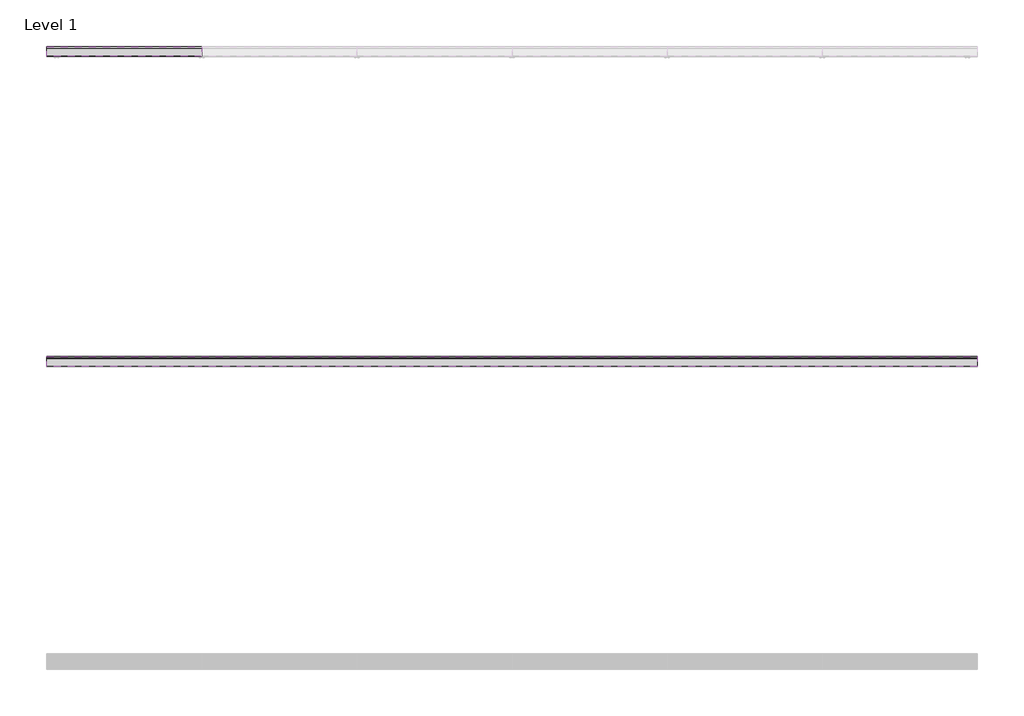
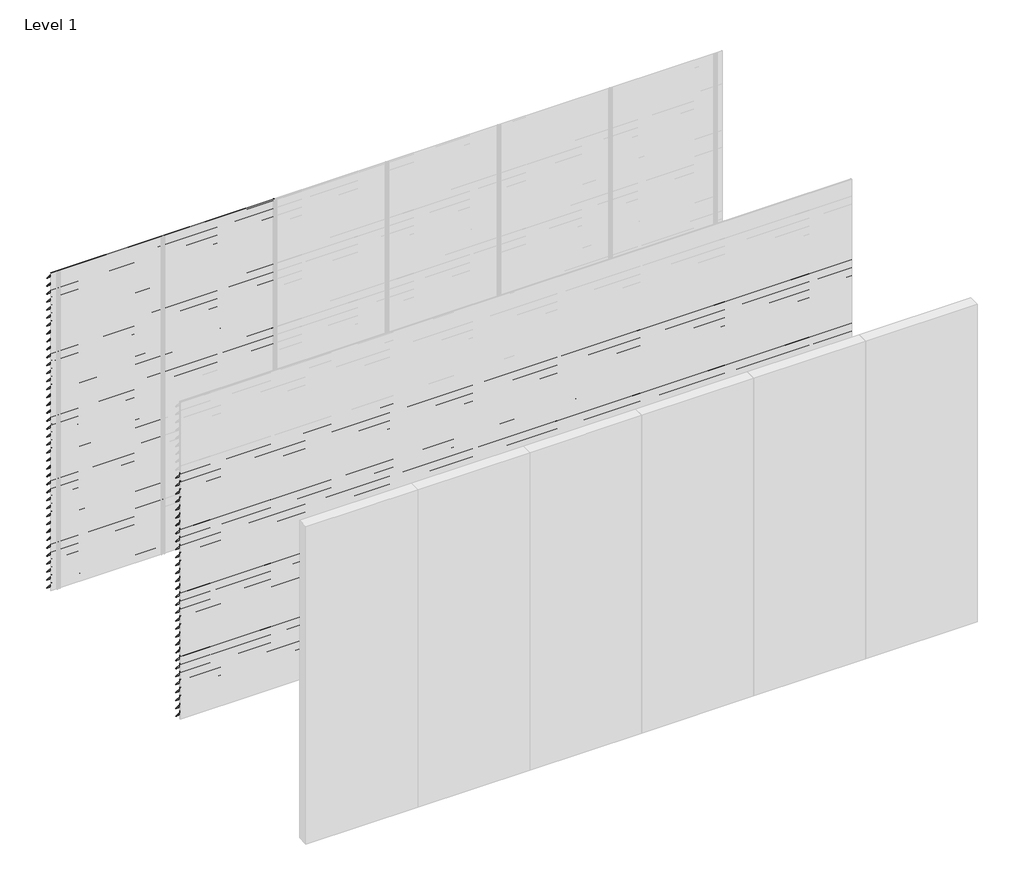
# One storey, part 33 of 35: 90 proxies.
"""IFC4 building model written with IfcOpenShell, lengths in millimetres."""

from ifc_helpers import new_model, si_unit, frame, origin, place, context, project, spatial, polyline, outline, extrude, element, save

model = new_model("IFC4")

# Units and contexts
model_context = context("Model", 3, world=origin())
ifc_project = project(units=[si_unit("LENGTHUNIT", "METRE", prefix="MILLI")], contexts=[model_context])

# Site, building, storey
site = spatial("IfcSite", under=ifc_project)
building = spatial("IfcBuilding", under=site)
storey = spatial("IfcBuildingStorey", under=building, Name="Level 1", Elevation=0.0)

# Proxies
placement = place(None, origin())
element("IfcBuildingElementProxy", 1, Name="Wall Sweeps", at=placement, inside=storey, context=model_context, shape_type="SweptSolid", body=[
    extrude(outline(polyline([(3.5, 3000.0), (3.5, 2985.5463701), (65.5, 2913.9330051), (65.5, 2910.4), (64.0, 2910.4), (64.0, 2913.3738975), (2.0, 2984.9872626), (2.0, 3000.0), (3.5, 3000.0)])), frame((0.0, 0.0, 0.0), z_axis=(1.0, 0.0, 0.0), x_axis=(0.0, 1.0, 0.0)), (0.0, 0.0, 1.0), 1000.0),
])
element("IfcBuildingElementProxy", 2, Name="Wall Sweeps", at=placement, inside=storey, context=model_context, shape_type="SweptSolid", body=[
    extrude(outline(polyline([(3.5, 2925.0), (3.5, 2910.5463701), (65.5, 2838.9330051), (65.5, 2835.4), (64.0, 2835.4), (64.0, 2838.3738975), (2.0, 2909.9872626), (2.0, 2925.0), (3.5, 2925.0)])), frame((0.0, 0.0, 0.0), z_axis=(1.0, 0.0, 0.0), x_axis=(0.0, 1.0, 0.0)), (0.0, 0.0, 1.0), 1000.0),
])
element("IfcBuildingElementProxy", 3, Name="Wall Sweeps", at=placement, inside=storey, context=model_context, shape_type="SweptSolid", body=[
    extrude(outline(polyline([(3.5, 2850.0), (3.5, 2835.5463701), (65.5, 2763.9330051), (65.5, 2760.4), (64.0, 2760.4), (64.0, 2763.3738975), (2.0, 2834.9872626), (2.0, 2850.0), (3.5, 2850.0)])), frame((0.0, 0.0, 0.0), z_axis=(1.0, 0.0, 0.0), x_axis=(0.0, 1.0, 0.0)), (0.0, 0.0, 1.0), 1000.0),
])
element("IfcBuildingElementProxy", 4, Name="Wall Sweeps", at=placement, inside=storey, context=model_context, shape_type="SweptSolid", body=[
    extrude(outline(polyline([(3.5, 2775.0), (3.5, 2760.5463701), (65.5, 2688.9330051), (65.5, 2685.4), (64.0, 2685.4), (64.0, 2688.3738975), (2.0, 2759.9872626), (2.0, 2775.0), (3.5, 2775.0)])), frame((0.0, 0.0, 0.0), z_axis=(1.0, 0.0, 0.0), x_axis=(0.0, 1.0, 0.0)), (0.0, 0.0, 1.0), 1000.0),
])
element("IfcBuildingElementProxy", 5, Name="Wall Sweeps", at=placement, inside=storey, context=model_context, shape_type="SweptSolid", body=[
    extrude(outline(polyline([(3.5, 2700.0), (3.5, 2685.5463701), (65.5, 2613.9330051), (65.5, 2610.4), (64.0, 2610.4), (64.0, 2613.3738975), (2.0, 2684.9872626), (2.0, 2700.0), (3.5, 2700.0)])), frame((0.0, 0.0, 0.0), z_axis=(1.0, 0.0, 0.0), x_axis=(0.0, 1.0, 0.0)), (0.0, 0.0, 1.0), 1000.0),
])
element("IfcBuildingElementProxy", 6, Name="Wall Sweeps", at=placement, inside=storey, context=model_context, shape_type="SweptSolid", body=[
    extrude(outline(polyline([(3.5, 2625.0), (3.5, 2610.5463701), (65.5, 2538.9330051), (65.5, 2535.4), (64.0, 2535.4), (64.0, 2538.3738975), (2.0, 2609.9872626), (2.0, 2625.0), (3.5, 2625.0)])), frame((0.0, 0.0, 0.0), z_axis=(1.0, 0.0, 0.0), x_axis=(0.0, 1.0, 0.0)), (0.0, 0.0, 1.0), 1000.0),
])
element("IfcBuildingElementProxy", 7, Name="Wall Sweeps", at=placement, inside=storey, context=model_context, shape_type="SweptSolid", body=[
    extrude(outline(polyline([(3.5, 2550.0), (3.5, 2535.5463701), (65.5, 2463.9330051), (65.5, 2460.4), (64.0, 2460.4), (64.0, 2463.3738975), (2.0, 2534.9872626), (2.0, 2550.0), (3.5, 2550.0)])), frame((0.0, 0.0, 0.0), z_axis=(1.0, 0.0, 0.0), x_axis=(0.0, 1.0, 0.0)), (0.0, 0.0, 1.0), 1000.0),
])
element("IfcBuildingElementProxy", 8, Name="Wall Sweeps", at=placement, inside=storey, context=model_context, shape_type="SweptSolid", body=[
    extrude(outline(polyline([(3.5, 2475.0), (3.5, 2460.5463701), (65.5, 2388.9330051), (65.5, 2385.4), (64.0, 2385.4), (64.0, 2388.3738975), (2.0, 2459.9872626), (2.0, 2475.0), (3.5, 2475.0)])), frame((0.0, 0.0, 0.0), z_axis=(1.0, 0.0, 0.0), x_axis=(0.0, 1.0, 0.0)), (0.0, 0.0, 1.0), 1000.0),
])
element("IfcBuildingElementProxy", 9, Name="Wall Sweeps", at=placement, inside=storey, context=model_context, shape_type="SweptSolid", body=[
    extrude(outline(polyline([(3.5, 2400.0), (3.5, 2385.5463701), (65.5, 2313.9330051), (65.5, 2310.4), (64.0, 2310.4), (64.0, 2313.3738975), (2.0, 2384.9872626), (2.0, 2400.0), (3.5, 2400.0)])), frame((0.0, 0.0, 0.0), z_axis=(1.0, 0.0, 0.0), x_axis=(0.0, 1.0, 0.0)), (0.0, 0.0, 1.0), 1000.0),
])
element("IfcBuildingElementProxy", 10, Name="Wall Sweeps", at=placement, inside=storey, context=model_context, shape_type="SweptSolid", body=[
    extrude(outline(polyline([(3.5, 2325.0), (3.5, 2310.5463701), (65.5, 2238.9330051), (65.5, 2235.4), (64.0, 2235.4), (64.0, 2238.3738975), (2.0, 2309.9872626), (2.0, 2325.0), (3.5, 2325.0)])), frame((0.0, 0.0, 0.0), z_axis=(1.0, 0.0, 0.0), x_axis=(0.0, 1.0, 0.0)), (0.0, 0.0, 1.0), 1000.0),
])
element("IfcBuildingElementProxy", 11, Name="Wall Sweeps", at=placement, inside=storey, context=model_context, shape_type="SweptSolid", body=[
    extrude(outline(polyline([(3.5, 2250.0), (3.5, 2235.5463701), (65.5, 2163.9330051), (65.5, 2160.4), (64.0, 2160.4), (64.0, 2163.3738975), (2.0, 2234.9872626), (2.0, 2250.0), (3.5, 2250.0)])), frame((0.0, 0.0, 0.0), z_axis=(1.0, 0.0, 0.0), x_axis=(0.0, 1.0, 0.0)), (0.0, 0.0, 1.0), 1000.0),
])
element("IfcBuildingElementProxy", 12, Name="Wall Sweeps", at=placement, inside=storey, context=model_context, shape_type="SweptSolid", body=[
    extrude(outline(polyline([(3.5, 2175.0), (3.5, 2160.5463701), (65.5, 2088.9330051), (65.5, 2085.4), (64.0, 2085.4), (64.0, 2088.3738975), (2.0, 2159.9872626), (2.0, 2175.0), (3.5, 2175.0)])), frame((0.0, 0.0, 0.0), z_axis=(1.0, 0.0, 0.0), x_axis=(0.0, 1.0, 0.0)), (0.0, 0.0, 1.0), 1000.0),
])
element("IfcBuildingElementProxy", 13, Name="Wall Sweeps", at=placement, inside=storey, context=model_context, shape_type="SweptSolid", body=[
    extrude(outline(polyline([(3.5, 2100.0), (3.5, 2085.5463701), (65.5, 2013.9330051), (65.5, 2010.4), (64.0, 2010.4), (64.0, 2013.3738975), (2.0, 2084.9872626), (2.0, 2100.0), (3.5, 2100.0)])), frame((0.0, 0.0, 0.0), z_axis=(1.0, 0.0, 0.0), x_axis=(0.0, 1.0, 0.0)), (0.0, 0.0, 1.0), 1000.0),
])
element("IfcBuildingElementProxy", 14, Name="Wall Sweeps", at=placement, inside=storey, context=model_context, shape_type="SweptSolid", body=[
    extrude(outline(polyline([(3.5, 2025.0), (3.5, 2010.5463701), (65.5, 1938.9330051), (65.5, 1935.4), (64.0, 1935.4), (64.0, 1938.3738975), (2.0, 2009.9872626), (2.0, 2025.0), (3.5, 2025.0)])), frame((0.0, 0.0, 0.0), z_axis=(1.0, 0.0, 0.0), x_axis=(0.0, 1.0, 0.0)), (0.0, 0.0, 1.0), 1000.0),
])
element("IfcBuildingElementProxy", 15, Name="Wall Sweeps", at=placement, inside=storey, context=model_context, shape_type="SweptSolid", body=[
    extrude(outline(polyline([(3.5, 1950.0), (3.5, 1935.5463701), (65.5, 1863.9330051), (65.5, 1860.4), (64.0, 1860.4), (64.0, 1863.3738975), (2.0, 1934.9872626), (2.0, 1950.0), (3.5, 1950.0)])), frame((0.0, 0.0, 0.0), z_axis=(1.0, 0.0, 0.0), x_axis=(0.0, 1.0, 0.0)), (0.0, 0.0, 1.0), 1000.0),
])
element("IfcBuildingElementProxy", 16, Name="Wall Sweeps", at=placement, inside=storey, context=model_context, shape_type="SweptSolid", body=[
    extrude(outline(polyline([(3.5, 1875.0), (3.5, 1860.5463701), (65.5, 1788.9330051), (65.5, 1785.4), (64.0, 1785.4), (64.0, 1788.3738975), (2.0, 1859.9872626), (2.0, 1875.0), (3.5, 1875.0)])), frame((0.0, 0.0, 0.0), z_axis=(1.0, 0.0, 0.0), x_axis=(0.0, 1.0, 0.0)), (0.0, 0.0, 1.0), 1000.0),
])
element("IfcBuildingElementProxy", 17, Name="Wall Sweeps", at=placement, inside=storey, context=model_context, shape_type="SweptSolid", body=[
    extrude(outline(polyline([(3.5, 1800.0), (3.5, 1785.5463701), (65.5, 1713.9330051), (65.5, 1710.4), (64.0, 1710.4), (64.0, 1713.3738975), (2.0, 1784.9872626), (2.0, 1800.0), (3.5, 1800.0)])), frame((0.0, 0.0, 0.0), z_axis=(1.0, 0.0, 0.0), x_axis=(0.0, 1.0, 0.0)), (0.0, 0.0, 1.0), 1000.0),
])
element("IfcBuildingElementProxy", 18, Name="Wall Sweeps", at=placement, inside=storey, context=model_context, shape_type="SweptSolid", body=[
    extrude(outline(polyline([(3.5, 1725.0), (3.5, 1710.5463701), (65.5, 1638.9330051), (65.5, 1635.4), (64.0, 1635.4), (64.0, 1638.3738975), (2.0, 1709.9872626), (2.0, 1725.0), (3.5, 1725.0)])), frame((0.0, 0.0, 0.0), z_axis=(1.0, 0.0, 0.0), x_axis=(0.0, 1.0, 0.0)), (0.0, 0.0, 1.0), 1000.0),
])
element("IfcBuildingElementProxy", 19, Name="Wall Sweeps", at=placement, inside=storey, context=model_context, shape_type="SweptSolid", body=[
    extrude(outline(polyline([(3.5, 1650.0), (3.5, 1635.5463701), (65.5, 1563.9330051), (65.5, 1560.4), (64.0, 1560.4), (64.0, 1563.3738975), (2.0, 1634.9872626), (2.0, 1650.0), (3.5, 1650.0)])), frame((0.0, 0.0, 0.0), z_axis=(1.0, 0.0, 0.0), x_axis=(0.0, 1.0, 0.0)), (0.0, 0.0, 1.0), 1000.0),
])
element("IfcBuildingElementProxy", 20, Name="Wall Sweeps", at=placement, inside=storey, context=model_context, shape_type="SweptSolid", body=[
    extrude(outline(polyline([(3.5, 1575.0), (3.5, 1560.5463701), (65.5, 1488.9330051), (65.5, 1485.4), (64.0, 1485.4), (64.0, 1488.3738975), (2.0, 1559.9872626), (2.0, 1575.0), (3.5, 1575.0)])), frame((0.0, 0.0, 0.0), z_axis=(1.0, 0.0, 0.0), x_axis=(0.0, 1.0, 0.0)), (0.0, 0.0, 1.0), 1000.0),
])
element("IfcBuildingElementProxy", 21, Name="Wall Sweeps", at=placement, inside=storey, context=model_context, shape_type="SweptSolid", body=[
    extrude(outline(polyline([(3.5, 1500.0), (3.5, 1485.5463701), (65.5, 1413.9330051), (65.5, 1410.4), (64.0, 1410.4), (64.0, 1413.3738975), (2.0, 1484.9872626), (2.0, 1500.0), (3.5, 1500.0)])), frame((0.0, 0.0, 0.0), z_axis=(1.0, 0.0, 0.0), x_axis=(0.0, 1.0, 0.0)), (0.0, 0.0, 1.0), 1000.0),
])
element("IfcBuildingElementProxy", 22, Name="Wall Sweeps", at=placement, inside=storey, context=model_context, shape_type="SweptSolid", body=[
    extrude(outline(polyline([(3.5, 1425.0), (3.5, 1410.5463701), (65.5, 1338.9330051), (65.5, 1335.4), (64.0, 1335.4), (64.0, 1338.3738975), (2.0, 1409.9872626), (2.0, 1425.0), (3.5, 1425.0)])), frame((0.0, 0.0, 0.0), z_axis=(1.0, 0.0, 0.0), x_axis=(0.0, 1.0, 0.0)), (0.0, 0.0, 1.0), 1000.0),
])
element("IfcBuildingElementProxy", 23, Name="Wall Sweeps", at=placement, inside=storey, context=model_context, shape_type="SweptSolid", body=[
    extrude(outline(polyline([(3.5, 1350.0), (3.5, 1335.5463701), (65.5, 1263.9330051), (65.5, 1260.4), (64.0, 1260.4), (64.0, 1263.3738975), (2.0, 1334.9872626), (2.0, 1350.0), (3.5, 1350.0)])), frame((0.0, 0.0, 0.0), z_axis=(1.0, 0.0, 0.0), x_axis=(0.0, 1.0, 0.0)), (0.0, 0.0, 1.0), 1000.0),
])
element("IfcBuildingElementProxy", 24, Name="Wall Sweeps", at=placement, inside=storey, context=model_context, shape_type="SweptSolid", body=[
    extrude(outline(polyline([(3.5, 1275.0), (3.5, 1260.5463701), (65.5, 1188.9330051), (65.5, 1185.4), (64.0, 1185.4), (64.0, 1188.3738975), (2.0, 1259.9872626), (2.0, 1275.0), (3.5, 1275.0)])), frame((0.0, 0.0, 0.0), z_axis=(1.0, 0.0, 0.0), x_axis=(0.0, 1.0, 0.0)), (0.0, 0.0, 1.0), 1000.0),
])
element("IfcBuildingElementProxy", 25, Name="Wall Sweeps", at=placement, inside=storey, context=model_context, shape_type="SweptSolid", body=[
    extrude(outline(polyline([(3.5, 1200.0), (3.5, 1185.5463701), (65.5, 1113.9330051), (65.5, 1110.4), (64.0, 1110.4), (64.0, 1113.3738975), (2.0, 1184.9872626), (2.0, 1200.0), (3.5, 1200.0)])), frame((0.0, 0.0, 0.0), z_axis=(1.0, 0.0, 0.0), x_axis=(0.0, 1.0, 0.0)), (0.0, 0.0, 1.0), 1000.0),
])
element("IfcBuildingElementProxy", 26, Name="Wall Sweeps", at=placement, inside=storey, context=model_context, shape_type="SweptSolid", body=[
    extrude(outline(polyline([(3.5, 1125.0), (3.5, 1110.5463701), (65.5, 1038.9330051), (65.5, 1035.4), (64.0, 1035.4), (64.0, 1038.3738975), (2.0, 1109.9872626), (2.0, 1125.0), (3.5, 1125.0)])), frame((0.0, 0.0, 0.0), z_axis=(1.0, 0.0, 0.0), x_axis=(0.0, 1.0, 0.0)), (0.0, 0.0, 1.0), 1000.0),
])
element("IfcBuildingElementProxy", 27, Name="Wall Sweeps", at=placement, inside=storey, context=model_context, shape_type="SweptSolid", body=[
    extrude(outline(polyline([(3.5, 1050.0), (3.5, 1035.5463701), (65.5, 963.9330051), (65.5, 960.4), (64.0, 960.4), (64.0, 963.3738975), (2.0, 1034.9872626), (2.0, 1050.0), (3.5, 1050.0)])), frame((0.0, 0.0, 0.0), z_axis=(1.0, 0.0, 0.0), x_axis=(0.0, 1.0, 0.0)), (0.0, 0.0, 1.0), 1000.0),
])
element("IfcBuildingElementProxy", 28, Name="Wall Sweeps", at=placement, inside=storey, context=model_context, shape_type="SweptSolid", body=[
    extrude(outline(polyline([(3.5, 975.0), (3.5, 960.5463701), (65.5, 888.9330051), (65.5, 885.4), (64.0, 885.4), (64.0, 888.3738975), (2.0, 959.9872626), (2.0, 975.0), (3.5, 975.0)])), frame((0.0, 0.0, 0.0), z_axis=(1.0, 0.0, 0.0), x_axis=(0.0, 1.0, 0.0)), (0.0, 0.0, 1.0), 1000.0),
])
element("IfcBuildingElementProxy", 29, Name="Wall Sweeps", at=placement, inside=storey, context=model_context, shape_type="SweptSolid", body=[
    extrude(outline(polyline([(3.5, 900.0), (3.5, 885.5463701), (65.5, 813.9330051), (65.5, 810.4), (64.0, 810.4), (64.0, 813.3738975), (2.0, 884.9872626), (2.0, 900.0), (3.5, 900.0)])), frame((0.0, 0.0, 0.0), z_axis=(1.0, 0.0, 0.0), x_axis=(0.0, 1.0, 0.0)), (0.0, 0.0, 1.0), 1000.0),
])
element("IfcBuildingElementProxy", 30, Name="Wall Sweeps", at=placement, inside=storey, context=model_context, shape_type="SweptSolid", body=[
    extrude(outline(polyline([(3.5, 825.0), (3.5, 810.5463701), (65.5, 738.9330051), (65.5, 735.4), (64.0, 735.4), (64.0, 738.3738975), (2.0, 809.9872626), (2.0, 825.0), (3.5, 825.0)])), frame((0.0, 0.0, 0.0), z_axis=(1.0, 0.0, 0.0), x_axis=(0.0, 1.0, 0.0)), (0.0, 0.0, 1.0), 1000.0),
])
element("IfcBuildingElementProxy", 31, Name="Wall Sweeps", at=placement, inside=storey, context=model_context, shape_type="SweptSolid", body=[
    extrude(outline(polyline([(3.5, 750.0), (3.5, 735.5463701), (65.5, 663.9330051), (65.5, 660.4), (64.0, 660.4), (64.0, 663.3738975), (2.0, 734.9872626), (2.0, 750.0), (3.5, 750.0)])), frame((0.0, 0.0, 0.0), z_axis=(1.0, 0.0, 0.0), x_axis=(0.0, 1.0, 0.0)), (0.0, 0.0, 1.0), 1000.0),
])
element("IfcBuildingElementProxy", 32, Name="Wall Sweeps", at=placement, inside=storey, context=model_context, shape_type="SweptSolid", body=[
    extrude(outline(polyline([(3.5, 675.0), (3.5, 660.5463701), (65.5, 588.9330051), (65.5, 585.4), (64.0, 585.4), (64.0, 588.3738975), (2.0, 659.9872626), (2.0, 675.0), (3.5, 675.0)])), frame((0.0, 0.0, 0.0), z_axis=(1.0, 0.0, 0.0), x_axis=(0.0, 1.0, 0.0)), (0.0, 0.0, 1.0), 1000.0),
])
element("IfcBuildingElementProxy", 33, Name="Wall Sweeps", at=placement, inside=storey, context=model_context, shape_type="SweptSolid", body=[
    extrude(outline(polyline([(3.5, 600.0), (3.5, 585.5463701), (65.5, 513.9330051), (65.5, 510.4), (64.0, 510.4), (64.0, 513.3738975), (2.0, 584.9872626), (2.0, 600.0), (3.5, 600.0)])), frame((0.0, 0.0, 0.0), z_axis=(1.0, 0.0, 0.0), x_axis=(0.0, 1.0, 0.0)), (0.0, 0.0, 1.0), 1000.0),
])
element("IfcBuildingElementProxy", 34, Name="Wall Sweeps", at=placement, inside=storey, context=model_context, shape_type="SweptSolid", body=[
    extrude(outline(polyline([(3.5, 525.0), (3.5, 510.5463701), (65.5, 438.9330051), (65.5, 435.4), (64.0, 435.4), (64.0, 438.3738975), (2.0, 509.9872626), (2.0, 525.0), (3.5, 525.0)])), frame((0.0, 0.0, 0.0), z_axis=(1.0, 0.0, 0.0), x_axis=(0.0, 1.0, 0.0)), (0.0, 0.0, 1.0), 1000.0),
])
element("IfcBuildingElementProxy", 35, Name="Wall Sweeps", at=placement, inside=storey, context=model_context, shape_type="SweptSolid", body=[
    extrude(outline(polyline([(3.5, 450.0), (3.5, 435.5463701), (65.5, 363.9330051), (65.5, 360.4), (64.0, 360.4), (64.0, 363.3738975), (2.0, 434.9872626), (2.0, 450.0), (3.5, 450.0)])), frame((0.0, 0.0, 0.0), z_axis=(1.0, 0.0, 0.0), x_axis=(0.0, 1.0, 0.0)), (0.0, 0.0, 1.0), 1000.0),
])
element("IfcBuildingElementProxy", 36, Name="Wall Sweeps", at=placement, inside=storey, context=model_context, shape_type="SweptSolid", body=[
    extrude(outline(polyline([(3.5, 375.0), (3.5, 360.5463701), (65.5, 288.9330051), (65.5, 285.4), (64.0, 285.4), (64.0, 288.3738975), (2.0, 359.9872626), (2.0, 375.0), (3.5, 375.0)])), frame((0.0, 0.0, 0.0), z_axis=(1.0, 0.0, 0.0), x_axis=(0.0, 1.0, 0.0)), (0.0, 0.0, 1.0), 1000.0),
])
element("IfcBuildingElementProxy", 37, Name="Wall Sweeps", at=placement, inside=storey, context=model_context, shape_type="SweptSolid", body=[
    extrude(outline(polyline([(3.5, 300.0), (3.5, 285.5463701), (65.5, 213.9330051), (65.5, 210.4), (64.0, 210.4), (64.0, 213.3738975), (2.0, 284.9872626), (2.0, 300.0), (3.5, 300.0)])), frame((0.0, 0.0, 0.0), z_axis=(1.0, 0.0, 0.0), x_axis=(0.0, 1.0, 0.0)), (0.0, 0.0, 1.0), 1000.0),
])
element("IfcBuildingElementProxy", 38, Name="Wall Sweeps", at=placement, inside=storey, context=model_context, shape_type="SweptSolid", body=[
    extrude(outline(polyline([(3.5, 225.0), (3.5, 210.5463701), (65.5, 138.9330051), (65.5, 135.4), (64.0, 135.4), (64.0, 138.3738975), (2.0, 209.9872626), (2.0, 225.0), (3.5, 225.0)])), frame((0.0, 0.0, 0.0), z_axis=(1.0, 0.0, 0.0), x_axis=(0.0, 1.0, 0.0)), (0.0, 0.0, 1.0), 1000.0),
])
element("IfcBuildingElementProxy", 39, Name="Wall Sweeps", at=placement, inside=storey, context=model_context, shape_type="SweptSolid", body=[
    extrude(outline(polyline([(3.5, 150.0), (3.5, 135.5463701), (65.5, 63.9330051), (65.5, 60.4), (64.0, 60.4), (64.0, 63.3738975), (2.0, 134.9872626), (2.0, 150.0), (3.5, 150.0)])), frame((0.0, 0.0, 0.0), z_axis=(1.0, 0.0, 0.0), x_axis=(0.0, 1.0, 0.0)), (0.0, 0.0, 1.0), 1000.0),
])
element("IfcBuildingElementProxy", 40, Name="Wall Sweeps", at=placement, inside=storey, context=model_context, shape_type="SweptSolid", body=[
    extrude(outline(polyline([(3.5, 75.0), (3.5, 60.5463701), (65.5, -11.0669949), (65.5, -14.6), (64.0, -14.6), (64.0, -11.6261025), (2.0, 59.9872626), (2.0, 75.0), (3.5, 75.0)])), frame((0.0, 0.0, 0.0), z_axis=(1.0, 0.0, 0.0), x_axis=(0.0, 1.0, 0.0)), (0.0, 0.0, 1.0), 1000.0),
])
element("IfcBuildingElementProxy", 41, Name="Wall Sweeps", at=placement, inside=storey, context=model_context, shape_type="SweptSolid", body=[
    extrude(outline(polyline([(3.5, 3000.0), (3.5, 2985.5463701), (65.5, 2913.9330051), (65.5, 2910.4), (64.0, 2910.4), (64.0, 2913.3738975), (2.0, 2984.9872626), (2.0, 3000.0), (3.5, 3000.0)])), frame((1000.0, 0.0, 0.0), z_axis=(1.0, 0.0, 0.0), x_axis=(0.0, 1.0, 0.0)), (0.0, 0.0, 1.0), 1000.0),
])
element("IfcBuildingElementProxy", 42, Name="Wall Sweeps", at=placement, inside=storey, context=model_context, shape_type="SweptSolid", body=[
    extrude(outline(polyline([(3.5, 2925.0), (3.5, 2910.5463701), (65.5, 2838.9330051), (65.5, 2835.4), (64.0, 2835.4), (64.0, 2838.3738975), (2.0, 2909.9872626), (2.0, 2925.0), (3.5, 2925.0)])), frame((1000.0, 0.0, 0.0), z_axis=(1.0, 0.0, 0.0), x_axis=(0.0, 1.0, 0.0)), (0.0, 0.0, 1.0), 1000.0),
])
element("IfcBuildingElementProxy", 43, Name="Wall Sweeps", at=placement, inside=storey, context=model_context, shape_type="SweptSolid", body=[
    extrude(outline(polyline([(3.5, 2850.0), (3.5, 2835.5463701), (65.5, 2763.9330051), (65.5, 2760.4), (64.0, 2760.4), (64.0, 2763.3738975), (2.0, 2834.9872626), (2.0, 2850.0), (3.5, 2850.0)])), frame((1000.0, 0.0, 0.0), z_axis=(1.0, 0.0, 0.0), x_axis=(0.0, 1.0, 0.0)), (0.0, 0.0, 1.0), 1000.0),
])
element("IfcBuildingElementProxy", 44, Name="Wall Sweeps", at=placement, inside=storey, context=model_context, shape_type="SweptSolid", body=[
    extrude(outline(polyline([(3.5, 2775.0), (3.5, 2760.5463701), (65.5, 2688.9330051), (65.5, 2685.4), (64.0, 2685.4), (64.0, 2688.3738975), (2.0, 2759.9872626), (2.0, 2775.0), (3.5, 2775.0)])), frame((1000.0, 0.0, 0.0), z_axis=(1.0, 0.0, 0.0), x_axis=(0.0, 1.0, 0.0)), (0.0, 0.0, 1.0), 1000.0),
])
element("IfcBuildingElementProxy", 45, Name="Wall Sweeps", at=placement, inside=storey, context=model_context, shape_type="SweptSolid", body=[
    extrude(outline(polyline([(3.5, 2700.0), (3.5, 2685.5463701), (65.5, 2613.9330051), (65.5, 2610.4), (64.0, 2610.4), (64.0, 2613.3738975), (2.0, 2684.9872626), (2.0, 2700.0), (3.5, 2700.0)])), frame((1000.0, 0.0, 0.0), z_axis=(1.0, 0.0, 0.0), x_axis=(0.0, 1.0, 0.0)), (0.0, 0.0, 1.0), 1000.0),
])
element("IfcBuildingElementProxy", 46, Name="Wall Sweeps", at=placement, inside=storey, context=model_context, shape_type="SweptSolid", body=[
    extrude(outline(polyline([(3.5, 2625.0), (3.5, 2610.5463701), (65.5, 2538.9330051), (65.5, 2535.4), (64.0, 2535.4), (64.0, 2538.3738975), (2.0, 2609.9872626), (2.0, 2625.0), (3.5, 2625.0)])), frame((1000.0, 0.0, 0.0), z_axis=(1.0, 0.0, 0.0), x_axis=(0.0, 1.0, 0.0)), (0.0, 0.0, 1.0), 1000.0),
])
element("IfcBuildingElementProxy", 47, Name="Wall Sweeps", at=placement, inside=storey, context=model_context, shape_type="SweptSolid", body=[
    extrude(outline(polyline([(3.5, 2550.0), (3.5, 2535.5463701), (65.5, 2463.9330051), (65.5, 2460.4), (64.0, 2460.4), (64.0, 2463.3738975), (2.0, 2534.9872626), (2.0, 2550.0), (3.5, 2550.0)])), frame((1000.0, 0.0, 0.0), z_axis=(1.0, 0.0, 0.0), x_axis=(0.0, 1.0, 0.0)), (0.0, 0.0, 1.0), 1000.0),
])
element("IfcBuildingElementProxy", 48, Name="Wall Sweeps", at=placement, inside=storey, context=model_context, shape_type="SweptSolid", body=[
    extrude(outline(polyline([(3.5, 2475.0), (3.5, 2460.5463701), (65.5, 2388.9330051), (65.5, 2385.4), (64.0, 2385.4), (64.0, 2388.3738975), (2.0, 2459.9872626), (2.0, 2475.0), (3.5, 2475.0)])), frame((1000.0, 0.0, 0.0), z_axis=(1.0, 0.0, 0.0), x_axis=(0.0, 1.0, 0.0)), (0.0, 0.0, 1.0), 1000.0),
])
element("IfcBuildingElementProxy", 49, Name="Wall Sweeps", at=placement, inside=storey, context=model_context, shape_type="SweptSolid", body=[
    extrude(outline(polyline([(3.5, 2400.0), (3.5, 2385.5463701), (65.5, 2313.9330051), (65.5, 2310.4), (64.0, 2310.4), (64.0, 2313.3738975), (2.0, 2384.9872626), (2.0, 2400.0), (3.5, 2400.0)])), frame((1000.0, 0.0, 0.0), z_axis=(1.0, 0.0, 0.0), x_axis=(0.0, 1.0, 0.0)), (0.0, 0.0, 1.0), 1000.0),
])
element("IfcBuildingElementProxy", 50, Name="Wall Sweeps", at=placement, inside=storey, context=model_context, shape_type="SweptSolid", body=[
    extrude(outline(polyline([(3.5, 2325.0), (3.5, 2310.5463701), (65.5, 2238.9330051), (65.5, 2235.4), (64.0, 2235.4), (64.0, 2238.3738975), (2.0, 2309.9872626), (2.0, 2325.0), (3.5, 2325.0)])), frame((1000.0, 0.0, 0.0), z_axis=(1.0, 0.0, 0.0), x_axis=(0.0, 1.0, 0.0)), (0.0, 0.0, 1.0), 1000.0),
])
element("IfcBuildingElementProxy", 51, Name="Wall Sweeps", at=placement, inside=storey, context=model_context, shape_type="SweptSolid", body=[
    extrude(outline(polyline([(3.5, 2250.0), (3.5, 2235.5463701), (65.5, 2163.9330051), (65.5, 2160.4), (64.0, 2160.4), (64.0, 2163.3738975), (2.0, 2234.9872626), (2.0, 2250.0), (3.5, 2250.0)])), frame((1000.0, 0.0, 0.0), z_axis=(1.0, 0.0, 0.0), x_axis=(0.0, 1.0, 0.0)), (0.0, 0.0, 1.0), 1000.0),
])
element("IfcBuildingElementProxy", 52, Name="Wall Sweeps", at=placement, inside=storey, context=model_context, shape_type="SweptSolid", body=[
    extrude(outline(polyline([(3.5, 2175.0), (3.5, 2160.5463701), (65.5, 2088.9330051), (65.5, 2085.4), (64.0, 2085.4), (64.0, 2088.3738975), (2.0, 2159.9872626), (2.0, 2175.0), (3.5, 2175.0)])), frame((1000.0, 0.0, 0.0), z_axis=(1.0, 0.0, 0.0), x_axis=(0.0, 1.0, 0.0)), (0.0, 0.0, 1.0), 1000.0),
])
element("IfcBuildingElementProxy", 53, Name="Wall Sweeps", at=placement, inside=storey, context=model_context, shape_type="SweptSolid", body=[
    extrude(outline(polyline([(3.5, 2100.0), (3.5, 2085.5463701), (65.5, 2013.9330051), (65.5, 2010.4), (64.0, 2010.4), (64.0, 2013.3738975), (2.0, 2084.9872626), (2.0, 2100.0), (3.5, 2100.0)])), frame((1000.0, 0.0, 0.0), z_axis=(1.0, 0.0, 0.0), x_axis=(0.0, 1.0, 0.0)), (0.0, 0.0, 1.0), 1000.0),
])
element("IfcBuildingElementProxy", 54, Name="Wall Sweeps", at=placement, inside=storey, context=model_context, shape_type="SweptSolid", body=[
    extrude(outline(polyline([(3.5, 2025.0), (3.5, 2010.5463701), (65.5, 1938.9330051), (65.5, 1935.4), (64.0, 1935.4), (64.0, 1938.3738975), (2.0, 2009.9872626), (2.0, 2025.0), (3.5, 2025.0)])), frame((1000.0, 0.0, 0.0), z_axis=(1.0, 0.0, 0.0), x_axis=(0.0, 1.0, 0.0)), (0.0, 0.0, 1.0), 1000.0),
])
element("IfcBuildingElementProxy", 55, Name="Wall Sweeps", at=placement, inside=storey, context=model_context, shape_type="SweptSolid", body=[
    extrude(outline(polyline([(3.5, 1950.0), (3.5, 1935.5463701), (65.5, 1863.9330051), (65.5, 1860.4), (64.0, 1860.4), (64.0, 1863.3738975), (2.0, 1934.9872626), (2.0, 1950.0), (3.5, 1950.0)])), frame((1000.0, 0.0, 0.0), z_axis=(1.0, 0.0, 0.0), x_axis=(0.0, 1.0, 0.0)), (0.0, 0.0, 1.0), 1000.0),
])
element("IfcBuildingElementProxy", 56, Name="Wall Sweeps", at=placement, inside=storey, context=model_context, shape_type="SweptSolid", body=[
    extrude(outline(polyline([(3.5, 1875.0), (3.5, 1860.5463701), (65.5, 1788.9330051), (65.5, 1785.4), (64.0, 1785.4), (64.0, 1788.3738975), (2.0, 1859.9872626), (2.0, 1875.0), (3.5, 1875.0)])), frame((1000.0, 0.0, 0.0), z_axis=(1.0, 0.0, 0.0), x_axis=(0.0, 1.0, 0.0)), (0.0, 0.0, 1.0), 1000.0),
])
element("IfcBuildingElementProxy", 57, Name="Wall Sweeps", at=placement, inside=storey, context=model_context, shape_type="SweptSolid", body=[
    extrude(outline(polyline([(3.5, 1800.0), (3.5, 1785.5463701), (65.5, 1713.9330051), (65.5, 1710.4), (64.0, 1710.4), (64.0, 1713.3738975), (2.0, 1784.9872626), (2.0, 1800.0), (3.5, 1800.0)])), frame((1000.0, 0.0, 0.0), z_axis=(1.0, 0.0, 0.0), x_axis=(0.0, 1.0, 0.0)), (0.0, 0.0, 1.0), 1000.0),
])
element("IfcBuildingElementProxy", 58, Name="Wall Sweeps", at=placement, inside=storey, context=model_context, shape_type="SweptSolid", body=[
    extrude(outline(polyline([(3.5, 1725.0), (3.5, 1710.5463701), (65.5, 1638.9330051), (65.5, 1635.4), (64.0, 1635.4), (64.0, 1638.3738975), (2.0, 1709.9872626), (2.0, 1725.0), (3.5, 1725.0)])), frame((1000.0, 0.0, 0.0), z_axis=(1.0, 0.0, 0.0), x_axis=(0.0, 1.0, 0.0)), (0.0, 0.0, 1.0), 1000.0),
])
element("IfcBuildingElementProxy", 59, Name="Wall Sweeps", at=placement, inside=storey, context=model_context, shape_type="SweptSolid", body=[
    extrude(outline(polyline([(3.5, 1650.0), (3.5, 1635.5463701), (65.5, 1563.9330051), (65.5, 1560.4), (64.0, 1560.4), (64.0, 1563.3738975), (2.0, 1634.9872626), (2.0, 1650.0), (3.5, 1650.0)])), frame((1000.0, 0.0, 0.0), z_axis=(1.0, 0.0, 0.0), x_axis=(0.0, 1.0, 0.0)), (0.0, 0.0, 1.0), 1000.0),
])
element("IfcBuildingElementProxy", 60, Name="Wall Sweeps", at=placement, inside=storey, context=model_context, shape_type="SweptSolid", body=[
    extrude(outline(polyline([(-1996.5, 2325.0), (-1996.5, 2310.5463701), (-1934.5, 2238.9330051), (-1934.5, 2235.4), (-1936.0, 2235.4), (-1936.0, 2238.3738975), (-1998.0, 2309.9872626), (-1998.0, 2325.0), (-1996.5, 2325.0)])), frame((0.0, 0.0, 0.0), z_axis=(1.0, 0.0, 0.0), x_axis=(0.0, 1.0, 0.0)), (0.0, 0.0, 1.0), 6000.0),
])
element("IfcBuildingElementProxy", 61, Name="Wall Sweeps", at=placement, inside=storey, context=model_context, shape_type="SweptSolid", body=[
    extrude(outline(polyline([(-1996.5, 2250.0), (-1996.5, 2235.5463701), (-1934.5, 2163.9330051), (-1934.5, 2160.4), (-1936.0, 2160.4), (-1936.0, 2163.3738975), (-1998.0, 2234.9872626), (-1998.0, 2250.0), (-1996.5, 2250.0)])), frame((0.0, 0.0, 0.0), z_axis=(1.0, 0.0, 0.0), x_axis=(0.0, 1.0, 0.0)), (0.0, 0.0, 1.0), 6000.0),
])
element("IfcBuildingElementProxy", 62, Name="Wall Sweeps", at=placement, inside=storey, context=model_context, shape_type="SweptSolid", body=[
    extrude(outline(polyline([(-1996.5, 2175.0), (-1996.5, 2160.5463701), (-1934.5, 2088.9330051), (-1934.5, 2085.4), (-1936.0, 2085.4), (-1936.0, 2088.3738975), (-1998.0, 2159.9872626), (-1998.0, 2175.0), (-1996.5, 2175.0)])), frame((0.0, 0.0, 0.0), z_axis=(1.0, 0.0, 0.0), x_axis=(0.0, 1.0, 0.0)), (0.0, 0.0, 1.0), 6000.0),
])
element("IfcBuildingElementProxy", 63, Name="Wall Sweeps", at=placement, inside=storey, context=model_context, shape_type="SweptSolid", body=[
    extrude(outline(polyline([(-1996.5, 2100.0), (-1996.5, 2085.5463701), (-1934.5, 2013.9330051), (-1934.5, 2010.4), (-1936.0, 2010.4), (-1936.0, 2013.3738975), (-1998.0, 2084.9872626), (-1998.0, 2100.0), (-1996.5, 2100.0)])), frame((0.0, 0.0, 0.0), z_axis=(1.0, 0.0, 0.0), x_axis=(0.0, 1.0, 0.0)), (0.0, 0.0, 1.0), 6000.0),
])
element("IfcBuildingElementProxy", 64, Name="Wall Sweeps", at=placement, inside=storey, context=model_context, shape_type="SweptSolid", body=[
    extrude(outline(polyline([(-1996.5, 2025.0), (-1996.5, 2010.5463701), (-1934.5, 1938.9330051), (-1934.5, 1935.4), (-1936.0, 1935.4), (-1936.0, 1938.3738975), (-1998.0, 2009.9872626), (-1998.0, 2025.0), (-1996.5, 2025.0)])), frame((0.0, 0.0, 0.0), z_axis=(1.0, 0.0, 0.0), x_axis=(0.0, 1.0, 0.0)), (0.0, 0.0, 1.0), 6000.0),
])
element("IfcBuildingElementProxy", 65, Name="Wall Sweeps", at=placement, inside=storey, context=model_context, shape_type="SweptSolid", body=[
    extrude(outline(polyline([(-1996.5, 1950.0), (-1996.5, 1935.5463701), (-1934.5, 1863.9330051), (-1934.5, 1860.4), (-1936.0, 1860.4), (-1936.0, 1863.3738975), (-1998.0, 1934.9872626), (-1998.0, 1950.0), (-1996.5, 1950.0)])), frame((0.0, 0.0, 0.0), z_axis=(1.0, 0.0, 0.0), x_axis=(0.0, 1.0, 0.0)), (0.0, 0.0, 1.0), 6000.0),
])
element("IfcBuildingElementProxy", 66, Name="Wall Sweeps", at=placement, inside=storey, context=model_context, shape_type="SweptSolid", body=[
    extrude(outline(polyline([(-1996.5, 1875.0), (-1996.5, 1860.5463701), (-1934.5, 1788.9330051), (-1934.5, 1785.4), (-1936.0, 1785.4), (-1936.0, 1788.3738975), (-1998.0, 1859.9872626), (-1998.0, 1875.0), (-1996.5, 1875.0)])), frame((0.0, 0.0, 0.0), z_axis=(1.0, 0.0, 0.0), x_axis=(0.0, 1.0, 0.0)), (0.0, 0.0, 1.0), 6000.0),
])
element("IfcBuildingElementProxy", 67, Name="Wall Sweeps", at=placement, inside=storey, context=model_context, shape_type="SweptSolid", body=[
    extrude(outline(polyline([(-1996.5, 1800.0), (-1996.5, 1785.5463701), (-1934.5, 1713.9330051), (-1934.5, 1710.4), (-1936.0, 1710.4), (-1936.0, 1713.3738975), (-1998.0, 1784.9872626), (-1998.0, 1800.0), (-1996.5, 1800.0)])), frame((0.0, 0.0, 0.0), z_axis=(1.0, 0.0, 0.0), x_axis=(0.0, 1.0, 0.0)), (0.0, 0.0, 1.0), 6000.0),
])
element("IfcBuildingElementProxy", 68, Name="Wall Sweeps", at=placement, inside=storey, context=model_context, shape_type="SweptSolid", body=[
    extrude(outline(polyline([(-1996.5, 1725.0), (-1996.5, 1710.5463701), (-1934.5, 1638.9330051), (-1934.5, 1635.4), (-1936.0, 1635.4), (-1936.0, 1638.3738975), (-1998.0, 1709.9872626), (-1998.0, 1725.0), (-1996.5, 1725.0)])), frame((0.0, 0.0, 0.0), z_axis=(1.0, 0.0, 0.0), x_axis=(0.0, 1.0, 0.0)), (0.0, 0.0, 1.0), 6000.0),
])
element("IfcBuildingElementProxy", 69, Name="Wall Sweeps", at=placement, inside=storey, context=model_context, shape_type="SweptSolid", body=[
    extrude(outline(polyline([(-1996.5, 1650.0), (-1996.5, 1635.5463701), (-1934.5, 1563.9330051), (-1934.5, 1560.4), (-1936.0, 1560.4), (-1936.0, 1563.3738975), (-1998.0, 1634.9872626), (-1998.0, 1650.0), (-1996.5, 1650.0)])), frame((0.0, 0.0, 0.0), z_axis=(1.0, 0.0, 0.0), x_axis=(0.0, 1.0, 0.0)), (0.0, 0.0, 1.0), 6000.0),
])
element("IfcBuildingElementProxy", 70, Name="Wall Sweeps", at=placement, inside=storey, context=model_context, shape_type="SweptSolid", body=[
    extrude(outline(polyline([(-1996.5, 1575.0), (-1996.5, 1560.5463701), (-1934.5, 1488.9330051), (-1934.5, 1485.4), (-1936.0, 1485.4), (-1936.0, 1488.3738975), (-1998.0, 1559.9872626), (-1998.0, 1575.0), (-1996.5, 1575.0)])), frame((0.0, 0.0, 0.0), z_axis=(1.0, 0.0, 0.0), x_axis=(0.0, 1.0, 0.0)), (0.0, 0.0, 1.0), 6000.0),
])
element("IfcBuildingElementProxy", 71, Name="Wall Sweeps", at=placement, inside=storey, context=model_context, shape_type="SweptSolid", body=[
    extrude(outline(polyline([(-1996.5, 1500.0), (-1996.5, 1485.5463701), (-1934.5, 1413.9330051), (-1934.5, 1410.4), (-1936.0, 1410.4), (-1936.0, 1413.3738975), (-1998.0, 1484.9872626), (-1998.0, 1500.0), (-1996.5, 1500.0)])), frame((0.0, 0.0, 0.0), z_axis=(1.0, 0.0, 0.0), x_axis=(0.0, 1.0, 0.0)), (0.0, 0.0, 1.0), 6000.0),
])
element("IfcBuildingElementProxy", 72, Name="Wall Sweeps", at=placement, inside=storey, context=model_context, shape_type="SweptSolid", body=[
    extrude(outline(polyline([(-1996.5, 1425.0), (-1996.5, 1410.5463701), (-1934.5, 1338.9330051), (-1934.5, 1335.4), (-1936.0, 1335.4), (-1936.0, 1338.3738975), (-1998.0, 1409.9872626), (-1998.0, 1425.0), (-1996.5, 1425.0)])), frame((0.0, 0.0, 0.0), z_axis=(1.0, 0.0, 0.0), x_axis=(0.0, 1.0, 0.0)), (0.0, 0.0, 1.0), 6000.0),
])
element("IfcBuildingElementProxy", 73, Name="Wall Sweeps", at=placement, inside=storey, context=model_context, shape_type="SweptSolid", body=[
    extrude(outline(polyline([(-1996.5, 1350.0), (-1996.5, 1335.5463701), (-1934.5, 1263.9330051), (-1934.5, 1260.4), (-1936.0, 1260.4), (-1936.0, 1263.3738975), (-1998.0, 1334.9872626), (-1998.0, 1350.0), (-1996.5, 1350.0)])), frame((0.0, 0.0, 0.0), z_axis=(1.0, 0.0, 0.0), x_axis=(0.0, 1.0, 0.0)), (0.0, 0.0, 1.0), 6000.0),
])
element("IfcBuildingElementProxy", 74, Name="Wall Sweeps", at=placement, inside=storey, context=model_context, shape_type="SweptSolid", body=[
    extrude(outline(polyline([(-1996.5, 1275.0), (-1996.5, 1260.5463701), (-1934.5, 1188.9330051), (-1934.5, 1185.4), (-1936.0, 1185.4), (-1936.0, 1188.3738975), (-1998.0, 1259.9872626), (-1998.0, 1275.0), (-1996.5, 1275.0)])), frame((0.0, 0.0, 0.0), z_axis=(1.0, 0.0, 0.0), x_axis=(0.0, 1.0, 0.0)), (0.0, 0.0, 1.0), 6000.0),
])
element("IfcBuildingElementProxy", 75, Name="Wall Sweeps", at=placement, inside=storey, context=model_context, shape_type="SweptSolid", body=[
    extrude(outline(polyline([(-1996.5, 1200.0), (-1996.5, 1185.5463701), (-1934.5, 1113.9330051), (-1934.5, 1110.4), (-1936.0, 1110.4), (-1936.0, 1113.3738975), (-1998.0, 1184.9872626), (-1998.0, 1200.0), (-1996.5, 1200.0)])), frame((0.0, 0.0, 0.0), z_axis=(1.0, 0.0, 0.0), x_axis=(0.0, 1.0, 0.0)), (0.0, 0.0, 1.0), 6000.0),
])
element("IfcBuildingElementProxy", 76, Name="Wall Sweeps", at=placement, inside=storey, context=model_context, shape_type="SweptSolid", body=[
    extrude(outline(polyline([(-1996.5, 1125.0), (-1996.5, 1110.5463701), (-1934.5, 1038.9330051), (-1934.5, 1035.4), (-1936.0, 1035.4), (-1936.0, 1038.3738975), (-1998.0, 1109.9872626), (-1998.0, 1125.0), (-1996.5, 1125.0)])), frame((0.0, 0.0, 0.0), z_axis=(1.0, 0.0, 0.0), x_axis=(0.0, 1.0, 0.0)), (0.0, 0.0, 1.0), 6000.0),
])
element("IfcBuildingElementProxy", 77, Name="Wall Sweeps", at=placement, inside=storey, context=model_context, shape_type="SweptSolid", body=[
    extrude(outline(polyline([(-1996.5, 1050.0), (-1996.5, 1035.5463701), (-1934.5, 963.9330051), (-1934.5, 960.4), (-1936.0, 960.4), (-1936.0, 963.3738975), (-1998.0, 1034.9872626), (-1998.0, 1050.0), (-1996.5, 1050.0)])), frame((0.0, 0.0, 0.0), z_axis=(1.0, 0.0, 0.0), x_axis=(0.0, 1.0, 0.0)), (0.0, 0.0, 1.0), 6000.0),
])
element("IfcBuildingElementProxy", 78, Name="Wall Sweeps", at=placement, inside=storey, context=model_context, shape_type="SweptSolid", body=[
    extrude(outline(polyline([(-1996.5, 975.0), (-1996.5, 960.5463701), (-1934.5, 888.9330051), (-1934.5, 885.4), (-1936.0, 885.4), (-1936.0, 888.3738975), (-1998.0, 959.9872626), (-1998.0, 975.0), (-1996.5, 975.0)])), frame((0.0, 0.0, 0.0), z_axis=(1.0, 0.0, 0.0), x_axis=(0.0, 1.0, 0.0)), (0.0, 0.0, 1.0), 6000.0),
])
element("IfcBuildingElementProxy", 79, Name="Wall Sweeps", at=placement, inside=storey, context=model_context, shape_type="SweptSolid", body=[
    extrude(outline(polyline([(-1996.5, 900.0), (-1996.5, 885.5463701), (-1934.5, 813.9330051), (-1934.5, 810.4), (-1936.0, 810.4), (-1936.0, 813.3738975), (-1998.0, 884.9872626), (-1998.0, 900.0), (-1996.5, 900.0)])), frame((0.0, 0.0, 0.0), z_axis=(1.0, 0.0, 0.0), x_axis=(0.0, 1.0, 0.0)), (0.0, 0.0, 1.0), 6000.0),
])
element("IfcBuildingElementProxy", 80, Name="Wall Sweeps", at=placement, inside=storey, context=model_context, shape_type="SweptSolid", body=[
    extrude(outline(polyline([(-1996.5, 825.0), (-1996.5, 810.5463701), (-1934.5, 738.9330051), (-1934.5, 735.4), (-1936.0, 735.4), (-1936.0, 738.3738975), (-1998.0, 809.9872626), (-1998.0, 825.0), (-1996.5, 825.0)])), frame((0.0, 0.0, 0.0), z_axis=(1.0, 0.0, 0.0), x_axis=(0.0, 1.0, 0.0)), (0.0, 0.0, 1.0), 6000.0),
])
element("IfcBuildingElementProxy", 81, Name="Wall Sweeps", at=placement, inside=storey, context=model_context, shape_type="SweptSolid", body=[
    extrude(outline(polyline([(-1996.5, 750.0), (-1996.5, 735.5463701), (-1934.5, 663.9330051), (-1934.5, 660.4), (-1936.0, 660.4), (-1936.0, 663.3738975), (-1998.0, 734.9872626), (-1998.0, 750.0), (-1996.5, 750.0)])), frame((0.0, 0.0, 0.0), z_axis=(1.0, 0.0, 0.0), x_axis=(0.0, 1.0, 0.0)), (0.0, 0.0, 1.0), 6000.0),
])
element("IfcBuildingElementProxy", 82, Name="Wall Sweeps", at=placement, inside=storey, context=model_context, shape_type="SweptSolid", body=[
    extrude(outline(polyline([(-1996.5, 675.0), (-1996.5, 660.5463701), (-1934.5, 588.9330051), (-1934.5, 585.4), (-1936.0, 585.4), (-1936.0, 588.3738975), (-1998.0, 659.9872626), (-1998.0, 675.0), (-1996.5, 675.0)])), frame((0.0, 0.0, 0.0), z_axis=(1.0, 0.0, 0.0), x_axis=(0.0, 1.0, 0.0)), (0.0, 0.0, 1.0), 6000.0),
])
element("IfcBuildingElementProxy", 83, Name="Wall Sweeps", at=placement, inside=storey, context=model_context, shape_type="SweptSolid", body=[
    extrude(outline(polyline([(-1996.5, 600.0), (-1996.5, 585.5463701), (-1934.5, 513.9330051), (-1934.5, 510.4), (-1936.0, 510.4), (-1936.0, 513.3738975), (-1998.0, 584.9872626), (-1998.0, 600.0), (-1996.5, 600.0)])), frame((0.0, 0.0, 0.0), z_axis=(1.0, 0.0, 0.0), x_axis=(0.0, 1.0, 0.0)), (0.0, 0.0, 1.0), 6000.0),
])
element("IfcBuildingElementProxy", 84, Name="Wall Sweeps", at=placement, inside=storey, context=model_context, shape_type="SweptSolid", body=[
    extrude(outline(polyline([(-1996.5, 525.0), (-1996.5, 510.5463701), (-1934.5, 438.9330051), (-1934.5, 435.4), (-1936.0, 435.4), (-1936.0, 438.3738975), (-1998.0, 509.9872626), (-1998.0, 525.0), (-1996.5, 525.0)])), frame((0.0, 0.0, 0.0), z_axis=(1.0, 0.0, 0.0), x_axis=(0.0, 1.0, 0.0)), (0.0, 0.0, 1.0), 6000.0),
])
element("IfcBuildingElementProxy", 85, Name="Wall Sweeps", at=placement, inside=storey, context=model_context, shape_type="SweptSolid", body=[
    extrude(outline(polyline([(-1996.5, 450.0), (-1996.5, 435.5463701), (-1934.5, 363.9330051), (-1934.5, 360.4), (-1936.0, 360.4), (-1936.0, 363.3738975), (-1998.0, 434.9872626), (-1998.0, 450.0), (-1996.5, 450.0)])), frame((0.0, 0.0, 0.0), z_axis=(1.0, 0.0, 0.0), x_axis=(0.0, 1.0, 0.0)), (0.0, 0.0, 1.0), 6000.0),
])
element("IfcBuildingElementProxy", 86, Name="Wall Sweeps", at=placement, inside=storey, context=model_context, shape_type="SweptSolid", body=[
    extrude(outline(polyline([(-1996.5, 375.0), (-1996.5, 360.5463701), (-1934.5, 288.9330051), (-1934.5, 285.4), (-1936.0, 285.4), (-1936.0, 288.3738975), (-1998.0, 359.9872626), (-1998.0, 375.0), (-1996.5, 375.0)])), frame((0.0, 0.0, 0.0), z_axis=(1.0, 0.0, 0.0), x_axis=(0.0, 1.0, 0.0)), (0.0, 0.0, 1.0), 6000.0),
])
element("IfcBuildingElementProxy", 87, Name="Wall Sweeps", at=placement, inside=storey, context=model_context, shape_type="SweptSolid", body=[
    extrude(outline(polyline([(-1996.5, 300.0), (-1996.5, 285.5463701), (-1934.5, 213.9330051), (-1934.5, 210.4), (-1936.0, 210.4), (-1936.0, 213.3738975), (-1998.0, 284.9872626), (-1998.0, 300.0), (-1996.5, 300.0)])), frame((0.0, 0.0, 0.0), z_axis=(1.0, 0.0, 0.0), x_axis=(0.0, 1.0, 0.0)), (0.0, 0.0, 1.0), 6000.0),
])
element("IfcBuildingElementProxy", 88, Name="Wall Sweeps", at=placement, inside=storey, context=model_context, shape_type="SweptSolid", body=[
    extrude(outline(polyline([(-1996.5, 225.0), (-1996.5, 210.5463701), (-1934.5, 138.9330051), (-1934.5, 135.4), (-1936.0, 135.4), (-1936.0, 138.3738975), (-1998.0, 209.9872626), (-1998.0, 225.0), (-1996.5, 225.0)])), frame((0.0, 0.0, 0.0), z_axis=(1.0, 0.0, 0.0), x_axis=(0.0, 1.0, 0.0)), (0.0, 0.0, 1.0), 6000.0),
])
element("IfcBuildingElementProxy", 89, Name="Wall Sweeps", at=placement, inside=storey, context=model_context, shape_type="SweptSolid", body=[
    extrude(outline(polyline([(-1996.5, 150.0), (-1996.5, 135.5463701), (-1934.5, 63.9330051), (-1934.5, 60.4), (-1936.0, 60.4), (-1936.0, 63.3738975), (-1998.0, 134.9872626), (-1998.0, 150.0), (-1996.5, 150.0)])), frame((0.0, 0.0, 0.0), z_axis=(1.0, 0.0, 0.0), x_axis=(0.0, 1.0, 0.0)), (0.0, 0.0, 1.0), 6000.0),
])
element("IfcBuildingElementProxy", 90, Name="Wall Sweeps", at=placement, inside=storey, context=model_context, shape_type="SweptSolid", body=[
    extrude(outline(polyline([(-1996.5, 75.0), (-1996.5, 60.5463701), (-1934.5, -11.0669949), (-1934.5, -14.6), (-1936.0, -14.6), (-1936.0, -11.6261025), (-1998.0, 59.9872626), (-1998.0, 75.0), (-1996.5, 75.0)])), frame((0.0, 0.0, 0.0), z_axis=(1.0, 0.0, 0.0), x_axis=(0.0, 1.0, 0.0)), (0.0, 0.0, 1.0), 6000.0),
])

save(model, "model.ifc")
